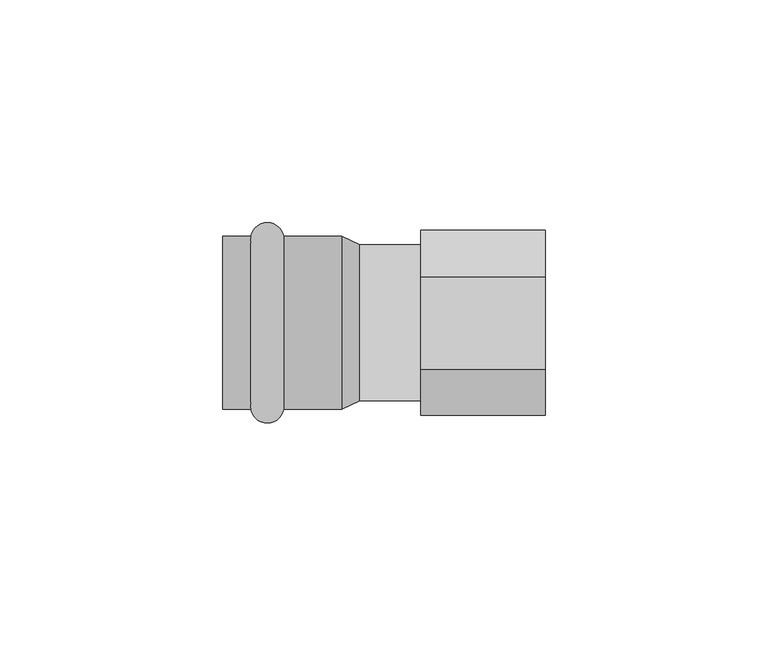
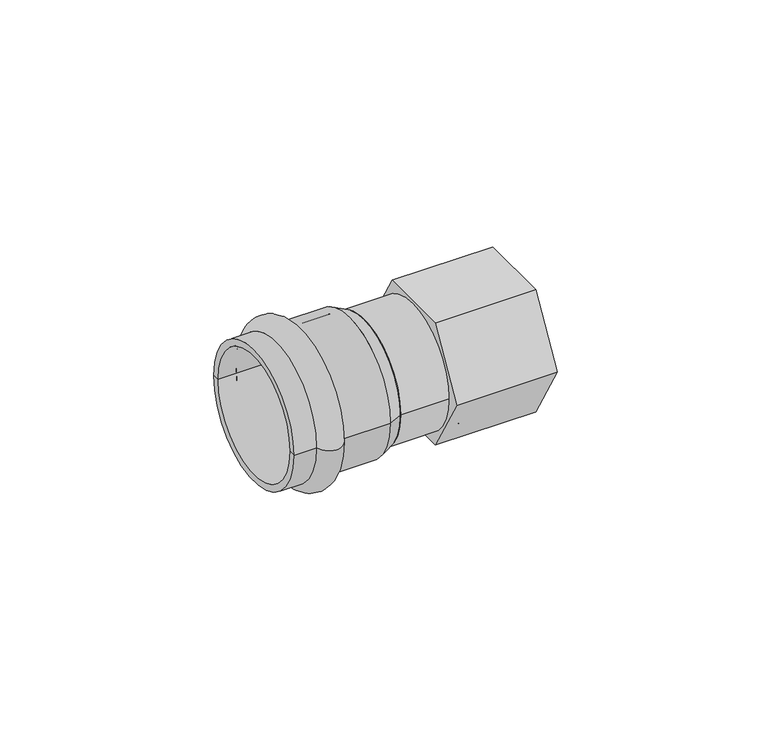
"""IFC4 building model written with IfcOpenShell, lengths in millimetres: pipe fitting geometry, VALTEC_VTi.908.I_Соединитель с накидной гайкой_Нержавеющая сталь : VTi.908.I."""

import ifcopenshell
import ifcopenshell.guid

model = None  # the IFC model being written
_history = None  # IfcOwnerHistory: only IFC2X3 demands one
_inside = {}  # id of a spatial element -> (the spatial element, [elements in it])
_under = {}  # id of a project, library or spatial element -> (it, [spatial elements below it])
_declared = {}  # id of a project -> (the project, [libraries it declares])
_typed = {}  # id of a type object -> (the type object, [elements of that type])
_made_of = {}  # id of a material, layer set ... -> (it, [elements and type objects made of it])


def new_model(schema):
    """Start an empty IFC model of exactly this schema.

    Asked for "IFC4X3", IfcOpenShell would pick the latest addendum, in which some entities
    have other attributes; the version numbers below select the first issue.
    IFC2X3 requires an IfcOwnerHistory on every rooted entity: one is made here for all.
    """
    global model, _history
    if schema == "IFC4X3":
        model = ifcopenshell.file(schema_version=(4, 3, 0, 0))
    else:
        model = ifcopenshell.file(schema=schema)
    _inside.clear()
    _under.clear()
    _declared.clear()
    _typed.clear()
    _made_of.clear()
    _history = None
    if model.schema == "IFC2X3":
        org = make("IfcOrganization", Name="unknown")
        user = make(
            "IfcPersonAndOrganization",
            ThePerson=make("IfcPerson", FamilyName="unknown"),
            TheOrganization=org,
        )
        app = make(
            "IfcApplication",
            ApplicationDeveloper=org,
            Version="unknown",
            ApplicationFullName="unknown",
            ApplicationIdentifier="unknown",
        )
        _history = make(
            "IfcOwnerHistory",
            OwningUser=user,
            OwningApplication=app,
            ChangeAction="ADDED",
            CreationDate=0,
        )
    return model


def make(cls, **values):
    """One entity of the class cls with the attributes given. An attribute that is None is left unset."""
    return model.create_entity(
        cls, **{name: value for name, value in values.items() if value is not None}
    )


def rooted(cls, **values):
    """An entity with a GlobalId (a new one), such as an element, a storey or a relation."""
    return make(cls, GlobalId=ifcopenshell.guid.new(), OwnerHistory=_history, **values)


def si_unit(unit_type, name, prefix=None):
    """IfcSIUnit, for example si_unit("LENGTHUNIT", "METRE", prefix="MILLI")."""
    return make("IfcSIUnit", UnitType=unit_type, Prefix=prefix, Name=name)


def assignment(units):
    """IfcUnitAssignment: the units of a project."""
    return None if units is None else make("IfcUnitAssignment", Units=units)


def point(xyz):
    """IfcCartesianPoint."""
    return None if xyz is None else make("IfcCartesianPoint", Coordinates=xyz)


def direction(xyz):
    """IfcDirection."""
    return None if xyz is None else make("IfcDirection", DirectionRatios=xyz)


def frame(location, z_axis=None, x_axis=None):
    """IfcAxis2Placement3D, a coordinate frame: its origin and axes. An axis left out is left unset."""
    return make(
        "IfcAxis2Placement3D",
        Location=point(location),
        Axis=direction(z_axis),
        RefDirection=direction(x_axis),
    )


def frame_2d(location, x_axis=None):
    """IfcAxis2Placement2D, a coordinate frame in the plane: its origin and x axis."""
    return make(
        "IfcAxis2Placement2D", Location=point(location), RefDirection=direction(x_axis)
    )


def origin():
    """The frame at (0, 0, 0) with its axes left unset."""
    return frame((0.0, 0.0, 0.0))


def origin_2d():
    """The frame at (0, 0) in the plane with its x axis left unset."""
    return frame_2d((0.0, 0.0))


def place(relative_to, where):
    """IfcLocalPlacement: puts the frame where relative to a parent placement (None: the world)."""
    return make(
        "IfcLocalPlacement", PlacementRelTo=relative_to, RelativePlacement=where
    )


def context(
    kind, dimensions, precision=None, world=None, true_north=None, identifier=None
):
    """IfcGeometricRepresentationContext, for example the 3D "Model" context."""
    return make(
        "IfcGeometricRepresentationContext",
        ContextIdentifier=identifier,
        ContextType=kind,
        CoordinateSpaceDimension=dimensions,
        Precision=precision,
        WorldCoordinateSystem=world,
        TrueNorth=true_north,
    )


def project(units=None, contexts=None):
    """IfcProject with its units and contexts."""
    return rooted(
        "IfcProject",
        Name="project",
        RepresentationContexts=contexts,
        UnitsInContext=assignment(units),
    )


def spatial(cls, under=None, at=None, **own):
    """A site, building, storey or space (cls), placed at a placement, below another one or the project."""
    s = rooted(cls, ObjectPlacement=at, **own)
    if under is not None:
        _under.setdefault(under.id(), (under, []))[1].append(s)
    return s


def polyline(points):
    """IfcPolyline through the points."""
    return make("IfcPolyline", Points=[point(p) for p in points])


def circle_curve(where, radius):
    """IfcCircle in the frame where."""
    return make("IfcCircle", Position=where, Radius=radius)


def ellipse_curve(where, semi_axis1, semi_axis2):
    """IfcEllipse in the frame where."""
    return make(
        "IfcEllipse", Position=where, SemiAxis1=semi_axis1, SemiAxis2=semi_axis2
    )


def trimmed(basis, trim1, trim2, sense, master):
    """IfcTrimmedCurve: the piece of a basis curve between two trims."""
    return make(
        "IfcTrimmedCurve",
        BasisCurve=basis,
        Trim1=trim1,
        Trim2=trim2,
        SenseAgreement=sense,
        MasterRepresentation=master,
    )


def segment(curve, same_sense, transition):
    """IfcCompositeCurveSegment."""
    return make(
        "IfcCompositeCurveSegment",
        Transition=transition,
        SameSense=same_sense,
        ParentCurve=curve,
    )


def composite_curve(segments, self_intersect=None):
    """IfcCompositeCurve: segments joined end to end."""
    return make("IfcCompositeCurve", Segments=segments, SelfIntersect=self_intersect)


def outline(outer, holes=None, kind="AREA"):
    """IfcArbitraryClosedProfileDef: a profile drawn as a closed curve; with holes, ...WithVoids."""
    if holes is None:
        return make("IfcArbitraryClosedProfileDef", ProfileType=kind, OuterCurve=outer)
    return make(
        "IfcArbitraryProfileDefWithVoids",
        ProfileType=kind,
        OuterCurve=outer,
        InnerCurves=holes,
    )


def extrude(swept, where, along, depth):
    """IfcExtrudedAreaSolid: the profile swept, set in the frame where, extruded along a direction by depth."""
    return make(
        "IfcExtrudedAreaSolid",
        SweptArea=swept,
        Position=where,
        ExtrudedDirection=direction(along),
        Depth=depth,
    )


def shape(context_of_items, identifier, shape_type, items):
    """IfcShapeRepresentation: the items that make up one representation, for example the "Body"."""
    return make(
        "IfcShapeRepresentation",
        ContextOfItems=context_of_items,
        RepresentationIdentifier=identifier,
        RepresentationType=shape_type,
        Items=items,
    )


def source(mapping_origin, context_of_items, identifier, shape_type, items):
    """IfcRepresentationMap: a shape defined once, which mapped items show again and again."""
    return make(
        "IfcRepresentationMap",
        MappingOrigin=mapping_origin,
        MappedRepresentation=shape(context_of_items, identifier, shape_type, items),
    )


def transform(
    local_origin,
    x_axis=None,
    y_axis=None,
    z_axis=None,
    scale=None,
    scale2=None,
    scale3=None,
    uniform=True,
):
    """IfcCartesianTransformationOperator3D, or its non-uniform kind. x_axis, y_axis, z_axis: its Axis1, 2, 3."""
    if uniform:
        return make(
            "IfcCartesianTransformationOperator3D",
            Axis1=direction(x_axis),
            Axis2=direction(y_axis),
            LocalOrigin=point(local_origin),
            Scale=scale,
            Axis3=direction(z_axis),
        )
    return make(
        "IfcCartesianTransformationOperator3DnonUniform",
        Axis1=direction(x_axis),
        Axis2=direction(y_axis),
        LocalOrigin=point(local_origin),
        Scale=scale,
        Axis3=direction(z_axis),
        Scale2=scale2,
        Scale3=scale3,
    )


def mapped(mapping_source, mapping_target):
    """IfcMappedItem: shows the shape of a source again, moved by a transform."""
    return make(
        "IfcMappedItem", MappingSource=mapping_source, MappingTarget=mapping_target
    )


def made_of(thing, what):
    """Note that an element or type object is made of a material, layer set ...; save() writes the relation."""
    if what is not None:
        _made_of.setdefault(what.id(), (what, []))[1].append(thing)
    return thing


def element(
    cls,
    number,
    at=None,
    inside=None,
    cuts=None,
    type_object=None,
    material=None,
    context=None,
    identifier="Body",
    shape_type=None,
    held_by="IfcProductDefinitionShape",
    body=None,
    shapes=None,
    **own,
):
    """One element of the class cls, such as IfcWall. Its Tag is "e" and its number.

    at: its placement. inside: the storey or other place that contains it. cuts: it is an
    opening in that element (IfcRelVoidsElement). A single representation is given by context,
    identifier, shape_type and body (its items); several are given by shapes. held_by: the class
    of the entity that holds the representations. save() writes the other relations.
    """
    e = rooted(cls, Tag="e%d" % number, ObjectPlacement=at, **own)
    if body is not None:
        shapes = [shape(context, identifier, shape_type, body)]
    if shapes is not None:
        e.Representation = make(held_by, Representations=shapes)
    if inside is not None:
        _inside.setdefault(inside.id(), (inside, []))[1].append(e)
    if cuts is not None:
        rooted(
            "IfcRelVoidsElement", RelatingBuildingElement=cuts, RelatedOpeningElement=e
        )
    if type_object is not None:
        _typed.setdefault(type_object.id(), (type_object, []))[1].append(e)
    return made_of(e, material)


def aggregate(whole, parts):
    """IfcRelAggregates: a whole, such as a stair, and the parts it consists of."""
    return rooted("IfcRelAggregates", RelatingObject=whole, RelatedObjects=parts)


def save(model, path):
    """Write the relations noted so far, then the file.

    IfcRelAggregates (storeys below a building ...), IfcRelContainedInSpatialStructure (elements
    in a storey), IfcRelDefinesByType, IfcRelAssociatesMaterial and IfcRelDeclares: one each for
    every whole, place, type object, material and project.
    """
    for whole, parts in _under.values():
        aggregate(whole, parts)
    for where, things in _inside.values():
        rooted(
            "IfcRelContainedInSpatialStructure",
            RelatedElements=things,
            RelatingStructure=where,
        )
    for kind, things in _typed.values():
        rooted("IfcRelDefinesByType", RelatedObjects=things, RelatingType=kind)
    for what, things in _made_of.values():
        rooted("IfcRelAssociatesMaterial", RelatedObjects=things, RelatingMaterial=what)
    for by, libraries in _declared.values():
        rooted("IfcRelDeclares", RelatingContext=by, RelatedDefinitions=libraries)
    model.write(path)


def plane_surface(at):
    """IfcPlane: the flat surface through the origin of the frame at, square to its z axis."""
    return make("IfcPlane", Position=at)


def cylinder_surface(at, radius):
    """IfcCylindricalSurface: all points at the distance radius from the z axis of the frame at."""
    return make("IfcCylindricalSurface", Position=at, Radius=radius)


def revolved_surface(curve, axis_point, axis_direction):
    """IfcSurfaceOfRevolution: the curve turned about the line through axis_point along axis_direction."""
    return make(
        "IfcSurfaceOfRevolution",
        SweptCurve=make("IfcArbitraryOpenProfileDef", ProfileType="CURVE", Curve=curve),
        AxisPosition=make("IfcAxis1Placement", Location=point(axis_point), Axis=direction(axis_direction)),
    )


def advanced_brep(points, edges, surfaces, faces):
    """IfcAdvancedBrep: a solid bounded by faces that lie on surfaces and meet in shared edges.

    An edge is (start, end): straight between two places in points (the first is 0);
    or (start, end, curve); or (start, end, curve, False) where it runs against its curve.
    A face is (place in surfaces, loops), or (place, loops, False) where it looks against
    its surface's normal. A loop lists edges by number (the first is 1), with a minus sign
    where the edge is run from its end to its start. The first loop is the outer one.
    """
    corners = [point(p) for p in points]
    vertices = [make("IfcVertexPoint", VertexGeometry=c) for c in corners]
    made = []
    for start, end, *more in edges:
        made.append(
            make(
                "IfcEdgeCurve",
                EdgeStart=vertices[start],
                EdgeEnd=vertices[end],
                EdgeGeometry=more[0] if more else make("IfcPolyline", Points=[corners[start], corners[end]]),
                SameSense=more[1] if len(more) > 1 else True,
            )
        )
    hull = []
    for where, loops, *sense in faces:
        bounds = []
        for j, loop in enumerate(loops):
            ring = [make("IfcOrientedEdge", EdgeElement=made[abs(k) - 1], Orientation=k > 0) for k in loop]
            bounds.append(
                make(
                    "IfcFaceOuterBound" if j == 0 else "IfcFaceBound",
                    Bound=make("IfcEdgeLoop", EdgeList=ring),
                    Orientation=True,
                )
            )
        hull.append(make("IfcAdvancedFace", Bounds=bounds, FaceSurface=surfaces[where], SameSense=sense[0] if sense else True))
    return make("IfcAdvancedBrep", Outer=make("IfcClosedShell", CfsFaces=hull))


def pipe_fitting_95dbb3e3(model_context):
    return source(origin(), model_context, "Body", "SolidModel", [
        advanced_brep(
        [(-52.1432371, -19.4, 0.0), (-52.1432371, 19.4, 0.0), (-44.7567629, 19.4, 0.0), (-44.7567629, -19.4, 0.0), (-58.5, -19.4, 0.0), (-58.5, 19.4, 0.0), (-58.5, -17.5, 0.0), (-58.5, 17.5, 0.0), (-31.7, -17.5, 0.0), (-31.7, 17.5, 0.0), (-31.7, -19.4, 0.0), (-31.7, 19.4, 0.0)],
        [
            (0, 1, circle_curve(frame((-52.1432371, 0.0, 0.0), z_axis=(1.0, 0.0, 0.0), x_axis=(0.0, 1.0, 0.0)), 19.4)),
            (1, 2, circle_curve(frame((-48.45, 18.75, 0.0), z_axis=(0.0, 0.0, -1.0), x_axis=(1.0, 0.0, 0.0)), 3.75)),
            (2, 3, circle_curve(frame((-44.7567629, 0.0, 0.0), z_axis=(-1.0, 0.0, 0.0), x_axis=(0.0, 1.0, 0.0)), 19.4)),
            (3, 0, circle_curve(frame((-48.45, -18.75, 0.0), z_axis=(0.0, 0.0, -1.0), x_axis=(1.0, 0.0, 0.0)), 3.75)),
            (1, 0, circle_curve(frame((-52.1432371, 0.0, 0.0), z_axis=(1.0, 0.0, 0.0), x_axis=(0.0, 1.0, 0.0)), 19.4)),
            (3, 2, circle_curve(frame((-44.7567629, 0.0, 0.0), z_axis=(-1.0, 0.0, 0.0), x_axis=(0.0, 1.0, 0.0)), 19.4)),
            (4, 5, circle_curve(frame((-58.5, 0.0, 0.0), z_axis=(1.0, 0.0, 0.0), x_axis=(0.0, 1.0, 0.0)), 19.4)),
            (5, 1),
            (0, 4),
            (5, 4, circle_curve(frame((-58.5, 0.0, 0.0), z_axis=(1.0, 0.0, 0.0), x_axis=(0.0, 1.0, 0.0)), 19.4)),
            (6, 7, circle_curve(frame((-58.5, 0.0, 0.0), z_axis=(1.0, 0.0, 0.0), x_axis=(0.0, 1.0, 0.0)), 17.5)),
            (7, 5),
            (4, 6),
            (7, 6, circle_curve(frame((-58.5, 0.0, 0.0), z_axis=(1.0, 0.0, 0.0), x_axis=(0.0, 1.0, 0.0)), 17.5)),
            (8, 9, circle_curve(frame((-31.7, 0.0, 0.0), z_axis=(1.0, 0.0, 0.0), x_axis=(0.0, 1.0, 0.0)), 17.5)),
            (9, 7),
            (6, 8),
            (9, 8, circle_curve(frame((-31.7, 0.0, 0.0), z_axis=(1.0, 0.0, 0.0), x_axis=(0.0, 1.0, 0.0)), 17.5)),
            (10, 11, circle_curve(frame((-31.7, 0.0, 0.0), z_axis=(1.0, 0.0, 0.0), x_axis=(0.0, 1.0, 0.0)), 19.4)),
            (11, 9),
            (8, 10),
            (11, 10, circle_curve(frame((-31.7, 0.0, 0.0), z_axis=(1.0, 0.0, 0.0), x_axis=(0.0, 1.0, 0.0)), 19.4)),
            (2, 11),
            (10, 3),
        ],
        [
            revolved_surface(trimmed(ellipse_curve(frame((-48.45, 18.75, 0.0), z_axis=(0.0, 0.0, 1.0), x_axis=(1.0, 0.0, 0.0)), 3.75, 3.75), [point((-44.7567629, 19.4, 0.0))], [point((-52.1432371, 19.4, 0.0))], True, "CARTESIAN"), (-62.0364426, 0.0, 0.0), (-1.0, 0.0, 0.0)),
            cylinder_surface(frame((-62.0364426, 0.0, 0.0), z_axis=(-1.0, 0.0, 0.0), x_axis=(0.0, 1.0, 0.0)), 19.4),
            plane_surface(frame((-58.5, 0.0, 0.0), z_axis=(-1.0, 0.0, 0.0), x_axis=(0.0, 1.0, 0.0))),
            revolved_surface(polyline([(-58.5, 17.5, 0.0), (-31.7, 17.5, 0.0)]), (-62.0364426, 0.0, 0.0), (-1.0, 0.0, 0.0)),
            plane_surface(frame((-31.7, 0.0, 0.0), z_axis=(1.0, 0.0, 0.0), x_axis=(0.0, 1.0, 0.0))),
        ],
        [
            (0, [[1, 2, 3, 4]]),
            (0, [[5, -4, 6, -2]]),
            (1, [[7, 8, -1, 9]]),
            (1, [[10, -9, -5, -8]]),
            (2, [[11, 12, -7, 13]]),
            (2, [[14, -13, -10, -12]]),
            (3, [[15, 16, -11, 17]]),
            (3, [[18, -17, -14, -16]]),
            (4, [[19, 20, -15, 21]]),
            (4, [[22, -21, -18, -20]]),
            (1, [[-3, 23, -19, 24]]),
            (1, [[-6, -24, -22, -23]]),
        ],
    ),
        extrude(outline(polyline([(-20.7846097, 0.0), (-10.3923048, 18.0), (10.3923048, 18.0), (20.7846097, 0.0), (10.3923048, -18.0), (-10.3923048, -18.0), (-20.7846097, 0.0)])), frame((-14.0, 0.0, 0.0), z_axis=(1.0, 0.0, 0.0), x_axis=(0.0, 1.0, 0.0)), (0.0, 0.0, 1.0), 28.0),
        extrude(outline(composite_curve([segment(trimmed(circle_curve(origin_2d(), 17.5), [point((-17.5, 0.0))], [point((17.5, 0.0))], False, "CARTESIAN"), True, "CONTINUOUS"), segment(trimmed(circle_curve(origin_2d(), 17.5), [point((17.5, 0.0))], [point((-17.5, 0.0))], False, "CARTESIAN"), True, "CONTINUOUS")], self_intersect=False)), frame((-27.7, 0.0, 0.0), z_axis=(1.0, 0.0, 0.0), x_axis=(0.0, 1.0, 0.0)), (0.0, 0.0, 1.0), 19.2),
        advanced_brep(
        [(-27.7, -17.5, 0.0), (-27.7, 17.5, 0.0), (-31.7, -19.4, 0.0), (-31.7, 19.4, 0.0)],
        [
            (0, 1, circle_curve(frame((-27.7, 0.0, 0.0), z_axis=(1.0, 0.0, 0.0), x_axis=(0.0, -1.0, 0.0)), 17.5)),
            (1, 0, circle_curve(frame((-27.7, 0.0, 0.0), z_axis=(1.0, 0.0, 0.0), x_axis=(0.0, 1.0, 0.0)), 17.5)),
            (2, 3, circle_curve(frame((-31.7, 0.0, 0.0), z_axis=(-1.0, 0.0, 0.0), x_axis=(0.0, 1.0, 0.0)), 19.4)),
            (3, 2, circle_curve(frame((-31.7, 0.0, 0.0), z_axis=(-1.0, 0.0, 0.0), x_axis=(0.0, -1.0, 0.0)), 19.4)),
            (3, 1),
            (0, 2),
        ],
        [
            plane_surface(frame((-27.7, 0.0, 0.0), z_axis=(1.0, 0.0, 0.0), x_axis=(0.0, 0.0, -1.0))),
            plane_surface(frame((-31.7, 0.0, 0.0), z_axis=(-1.0, 0.0, 0.0), x_axis=(0.0, 0.0, -1.0))),
            revolved_surface(polyline([(-27.7, -17.500000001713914, 0.0), (-31.7, -19.4, 0.0)]), (9.1421053, 0.0, 0.0), (-1.0, 0.0, 0.0)),
            revolved_surface(polyline([(-27.7, 17.500000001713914, 0.0), (-31.7, 19.4, 0.0)]), (9.1421053, 0.0, 0.0), (-1.0, 0.0, 0.0)),
        ],
        [
            (0, [[1, 2]]),
            (1, [[3, 4]]),
            (2, [[-4, 5, -1, 6]]),
            (3, [[-3, -6, -2, -5]]),
        ],
    ),
    ])


if __name__ == "__main__":
    model = new_model("IFC4")
    model_context = context("Model", 3, world=origin())
    ifc_project = project(units=[si_unit("LENGTHUNIT", "METRE", prefix="MILLI")], contexts=[model_context])
    site = spatial("IfcSite", under=ifc_project)
    building = spatial("IfcBuilding", under=site)
    placement = place(None, origin())
    pipe_fitting_shape = pipe_fitting_95dbb3e3(model_context)
    element("IfcPipeFitting", 1, ObjectType="VALTEC_VTi.908.I_Соединитель с накидной гайкой_Нержавеющая сталь : VTi.908.I", at=placement, inside=building, context=model_context, shape_type="MappedRepresentation", body=[
        mapped(pipe_fitting_shape, transform((0.0, 0.0, 0.0), x_axis=(1.0, 0.0, 0.0), y_axis=(0.0, 1.0, 0.0), z_axis=(0.0, 0.0, 1.0))),
    ])
    save(model, "model.ifc")
